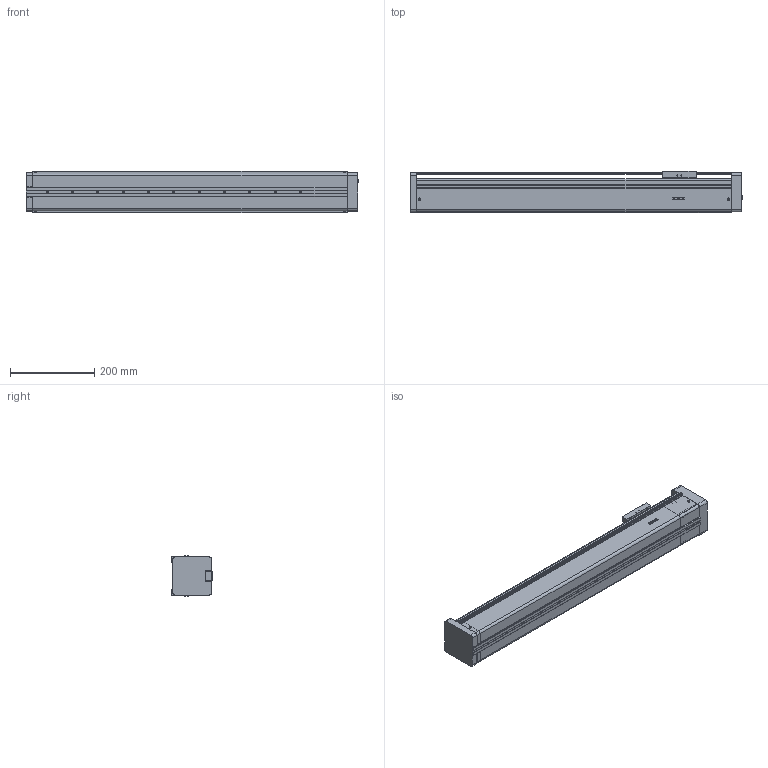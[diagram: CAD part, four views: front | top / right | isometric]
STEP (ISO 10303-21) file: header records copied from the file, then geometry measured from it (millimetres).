
FILE_DESCRIPTION(/* description */ (''),/* implementation_level */ '2;1');
FILE_NAME(/* name */ 'D:\混合母檔20191031\混和母檔\混和母檔\bin\Debug\Download\3D\KE905C-550AF0\KE905C-550AF0.stp',/* time_stamp */ '2019-11-04T14:19:21+08:00',/* author */ ('user'),/* organization */ (''),/* preprocessor_version */ 'ST-DEVELOPER v16.13',/* originating_system */ 'Autodesk Inventor 2018',/* authorisation */ '');
FILE_SCHEMA (('AUTOMOTIVE_DESIGN { 1 0 10303 214 3 1 1 }'));
Length unit declared in the file: millimetre
Products named in the file (3): KE905C-550AF0; KE90-F0-BP; KE90-SL
Assembly tree (2 placements, depth 2):
  KE905C-550AF0
    KE90-F0-BP
    KE90-SL
Bounding box: 786 x 98 x 98.4 mm (x, y, z)
Volume: 5470293.9 mm3; surface area: 497736.1 mm2
Topology: 3 solids, 22 shells, 883 faces, 2337 edges, 1541 vertices
Faces by surface type: plane 494, bspline 136, cone 121, cylinder 84, torus 40, sphere 8
Full cylindrical faces by diameter (mm): 2.5 x16, 3 x2, 3.3 x4, 4.2 x4, 4.5 x6, 4.917 x11, 5 x9, 8 x7, 46 x1, 50 x1
Entity records: 30728 total; most frequent: CARTESIAN_POINT 9586, ORIENTED_EDGE 4378, DIRECTION 3877, EDGE_CURVE 2189, VERTEX_POINT 1499, AXIS2_PLACEMENT_3D 1316, LINE 1245, VECTOR 1245
